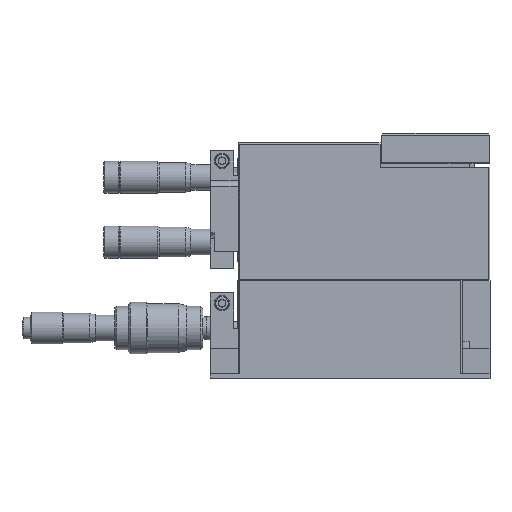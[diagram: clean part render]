
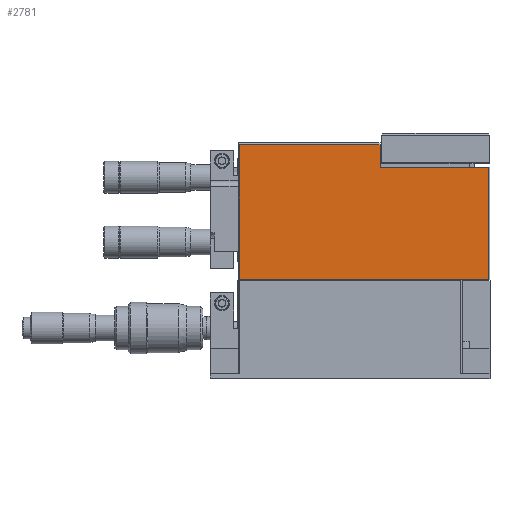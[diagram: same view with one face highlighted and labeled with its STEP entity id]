
A CAD part, top view. The second image highlights one B-rep face of the part: STEP entity #2781.
In plain terms, the highlighted planar face has unit normal (0, 0, 1).
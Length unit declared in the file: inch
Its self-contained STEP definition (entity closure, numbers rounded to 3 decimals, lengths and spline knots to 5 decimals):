
#1673=EDGE_CURVE('P3A-DM-MM-HN-SI[2]',#5066,#5067,#5068,.F.);
#2781=ADVANCED_FACE('P3A-DM-MM-HN-SI[2]',(#6710),#6711,.T.);
#3036=EDGE_CURVE('P3A-DM-MM-HN-SI[2]',#5066,#7067,#7068,.T.);
#3338=EDGE_CURVE('P3A-DM-MM-HN-SI[2]',#7455,#5067,#7456,.F.);
#3411=EDGE_CURVE('P3A-DM-MM-HN-SI[2]',#7552,#7553,#7554,.T.);
#4106=EDGE_CURVE('P3A-DM-MM-HN-SI[2]',#7067,#7552,#8444,.T.);
#4557=EDGE_CURVE('P3A-DM-MM-HN-SI[2]',#7455,#7553,#9036,.F.);
#5066=VERTEX_POINT('',#9719);
#5067=VERTEX_POINT('',#9720);
#5068=LINE('',#9721,#9722);
#6710=FACE_OUTER_BOUND('',#12129,.T.);
#6711=PLANE('',#12130);
#7067=VERTEX_POINT('',#12654);
#7068=LINE('',#12655,#12656);
#7455=VERTEX_POINT('',#13252);
#7456=LINE('',#13253,#13254);
#7552=VERTEX_POINT('',#13393);
#7553=VERTEX_POINT('',#13394);
#7554=LINE('',#13395,#13396);
#8444=LINE('',#14776,#14777);
#9036=LINE('',#15664,#15665);
#9719=CARTESIAN_POINT('',(-1.02,-2.29,0.875));
#9720=CARTESIAN_POINT('',(-1.02,-4.1,0.875));
#9721=CARTESIAN_POINT('',(-1.02,-3.06,0.875));
#9722=VECTOR('',#16160,1.0);
#12129=EDGE_LOOP('',(#17885,#17886,#17887,#17888,#17889,#17890));
#12130=AXIS2_PLACEMENT_3D('',#17891,#17892,#17893);
#12654=CARTESIAN_POINT('',(-2.77,-2.29,0.875));
#12655=CARTESIAN_POINT('',(-2.8925,-2.29,0.875));
#12656=VECTOR('',#18301,1.0);
#13252=CARTESIAN_POINT('',(-5.03,-4.1,0.875));
#13253=CARTESIAN_POINT('',(-3.9,-4.1,0.875));
#13254=VECTOR('',#18778,1.0);
#13393=CARTESIAN_POINT('',(-2.77,-1.93,0.875));
#13394=CARTESIAN_POINT('',(-5.03,-1.93,0.875));
#13395=CARTESIAN_POINT('',(-3.4625,-1.93,0.875));
#13396=VECTOR('',#18905,1.0);
#14776=CARTESIAN_POINT('',(-2.77,-3.015,0.875));
#14777=VECTOR('',#20073,1.0);
#15664=CARTESIAN_POINT('',(-5.03,-3.01125,0.875));
#15665=VECTOR('',#20829,1.0);
#16160=DIRECTION('',(0.0,1.0,0.0));
#17885=ORIENTED_EDGE('',*,*,#3411,.T.);
#17886=ORIENTED_EDGE('',*,*,#4557,.F.);
#17887=ORIENTED_EDGE('',*,*,#3338,.T.);
#17888=ORIENTED_EDGE('',*,*,#1673,.F.);
#17889=ORIENTED_EDGE('',*,*,#3036,.T.);
#17890=ORIENTED_EDGE('',*,*,#4106,.T.);
#17891=CARTESIAN_POINT('',(-3.9,-3.015,0.875));
#17892=DIRECTION('',(0.,0.,1.0));
#17893=DIRECTION('',(1.0,0.,0.0));
#18301=DIRECTION('',(-1.0,0.0,0.));
#18778=DIRECTION('',(-1.0,0.0,0.));
#18905=DIRECTION('',(-1.0,0.,0.));
#20073=DIRECTION('',(0.0,1.0,0.0));
#20829=DIRECTION('',(0.0,-1.0,0.0));
